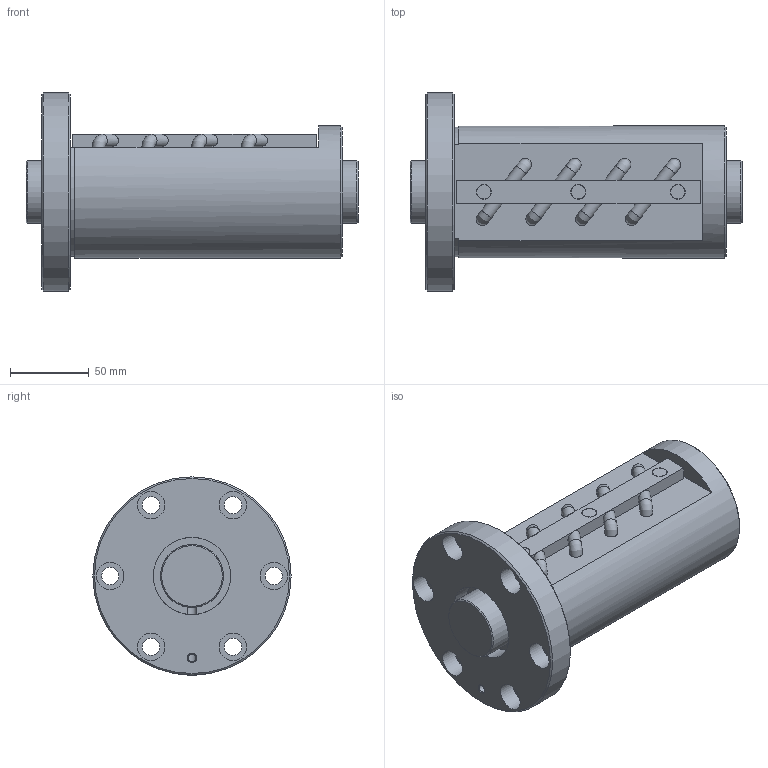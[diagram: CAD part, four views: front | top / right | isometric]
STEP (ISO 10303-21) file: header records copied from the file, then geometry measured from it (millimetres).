
FILE_DESCRIPTION(/* description */ ('STEP AP203'),/* implementation_level */ '2;1');
FILE_NAME(/* name */ 'BIF4012V-10RRG0+211LC0_000',/* time_stamp */ '2024-07-15T08:24:44+02:00',/* author */ ('License CC BY-ND 4.0'),/* organization */ ('CADENAS'),/* preprocessor_version */ 'ST-DEVELOPER v19.3',/* originating_system */ 'PARTsolutions',/* authorisation */ ' ');
FILE_SCHEMA (('CONFIG_CONTROL_DESIGN'));
Length unit declared in the file: millimetre
Products named in the file (3): BIF4012V-10RRG0+211LC0_000; BIF4012V-10RR000 Shaft; BIF4012V-10RR Nut
Assembly tree (2 placements, depth 2):
  BIF4012V-10RRG0+211LC0_000
    BIF4012V-10RR000 Shaft
    BIF4012V-10RR Nut
Bounding box: 211 x 126 x 126 mm (x, y, z)
Volume: 1104082.1 mm3; surface area: 138971.1 mm2
Topology: 2 solids, 2 shells, 111 faces, 257 edges, 164 vertices
Faces by surface type: plane 53, cylinder 44, torus 8, cone 6
Full cylindrical faces by diameter (mm): 4.917 x1, 6.199 x2, 8 x8, 9 x3, 9.5 x3, 11 x6, 17.5 x6, 40 x2, 49.2 x2, 84 x1, 126 x1
Entity records: 3075 total; most frequent: CARTESIAN_POINT 584, DIRECTION 554, ORIENTED_EDGE 396, AXIS2_PLACEMENT_3D 254, EDGE_LOOP 200, FACE_BOUND 200, EDGE_CURVE 198, VERTEX_POINT 148
